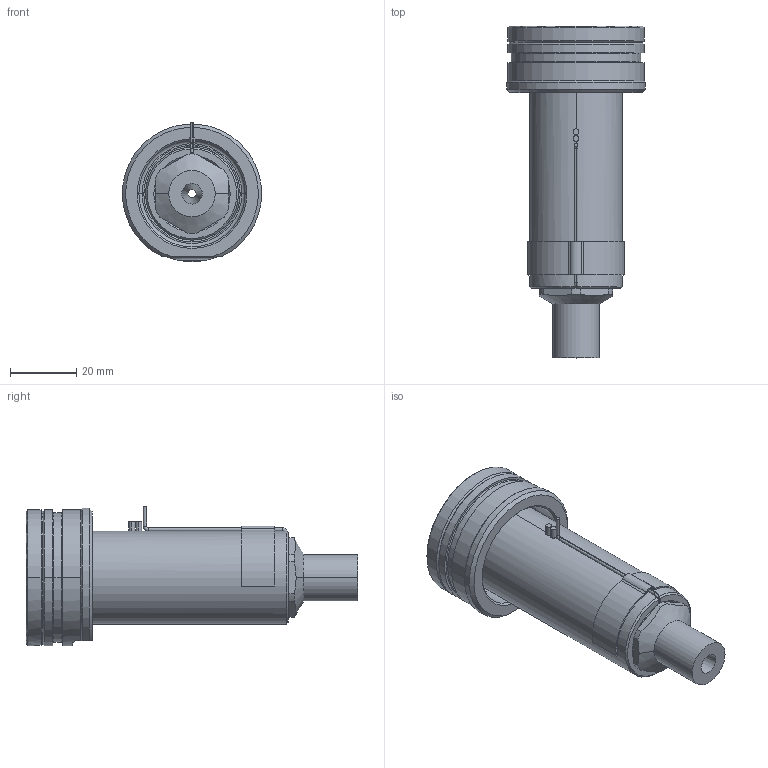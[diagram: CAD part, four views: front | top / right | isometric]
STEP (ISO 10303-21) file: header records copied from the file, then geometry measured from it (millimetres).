
FILE_DESCRIPTION((''),'2;1');
FILE_NAME('EO10_SG_ESG_070_SW','2024-02-19T12:25:28',('sundharh'),(''),'CREO PARAMETRIC BY PTC INC, 2023154','CREO PARAMETRIC BY PTC INC, 2023154','');
FILE_SCHEMA(('CONFIG_CONTROL_DESIGN'));
Length unit declared in the file: millimetre
Products named in the file (1): EO10_SG_ESG_070_SW
Bounding box: 41.85 x 100 x 42.02 mm (x, y, z)
Volume: 57717.4 mm3; surface area: 17224.8 mm2
Topology: 1 solids, 1 shells, 160 faces, 409 edges, 252 vertices
Faces by surface type: cylinder 63, plane 45, cone 29, torus 17, bspline 3, sphere 3
Entity records: 5503 total; most frequent: CARTESIAN_POINT 1554, DIRECTION 857, ORIENTED_EDGE 810, EDGE_CURVE 405, AXIS2_PLACEMENT_3D 353, VERTEX_POINT 252, CIRCLE 196, EDGE_LOOP 175
